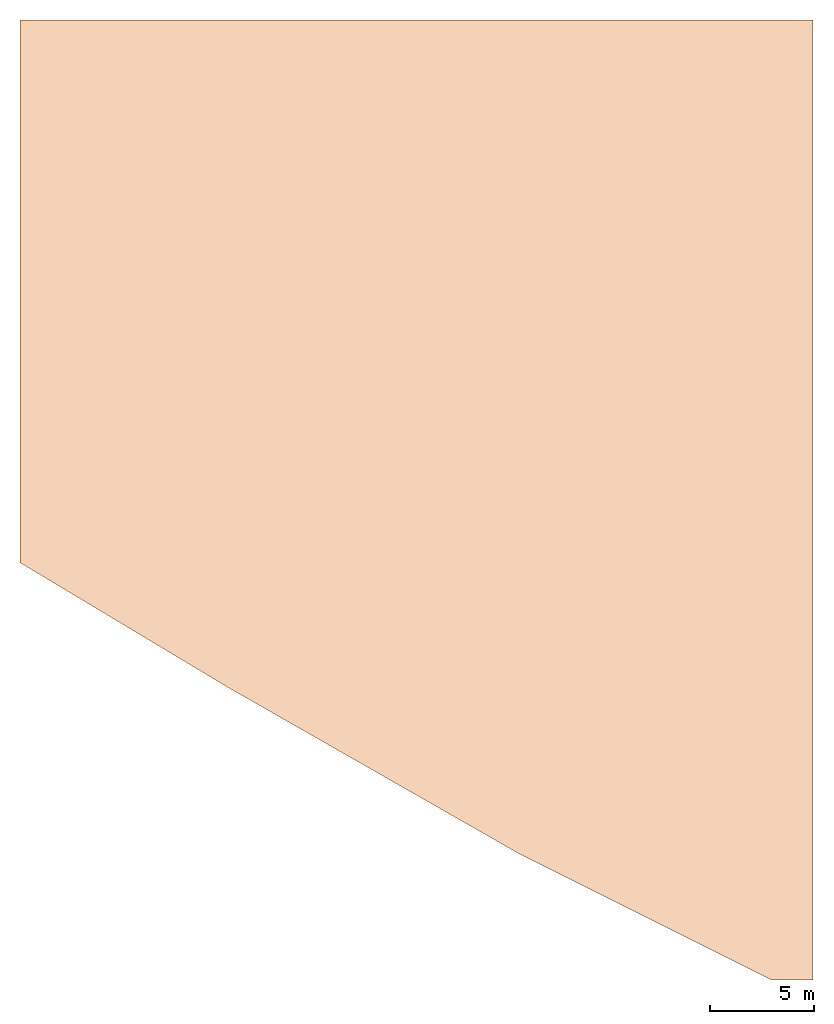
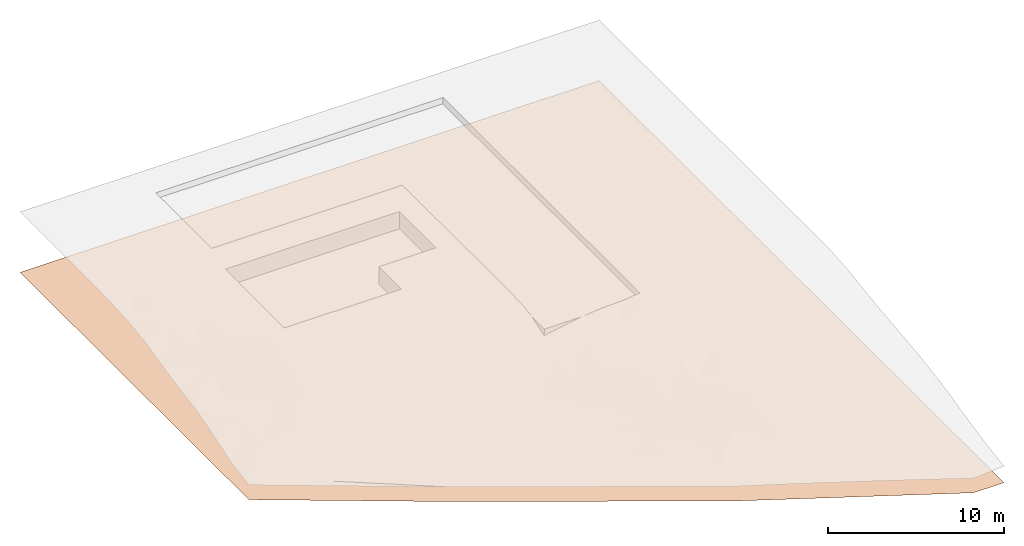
# Not in any storey, incomplete: 1 geographic element.
"""IFC4X3_ADD2 model written with IfcOpenShell, lengths in metres."""

from ifc_helpers import new_model, entity, si_unit, direction, origin_with_axes, place, context, project, spatial, shape, element, save


model = new_model("IFC4X3_ADD2")

# Units and contexts
model_context = context("Model", 3, precision=1e-05, world=origin_with_axes(), true_north=direction((0.0, 1.0)))
ifc_project = project(units=[si_unit("LENGTHUNIT", "METRE"), si_unit("AREAUNIT", "SQUARE_METRE"), si_unit("VOLUMEUNIT", "CUBIC_METRE"), si_unit("PLANEANGLEUNIT", "RADIAN"), si_unit("TIMEUNIT", "SECOND"), si_unit("MASSUNIT", "GRAM")], contexts=[model_context])

# Road
road_placement = place(None, origin_with_axes())
road = spatial("IfcRoad", under=ifc_project, at=road_placement, Name="Civil Road", PredefinedType="NOTDEFINED")

# Geographic element
geographic_element_placement = place(None, origin_with_axes())
element("IfcGeographicElement", 1, at=geographic_element_placement, inside=road, Name="Geländemodell1", PredefinedType="TERRAIN", shapes=[
    shape(model_context, None, None, [entity("IfcTriangulatedIrregularNetwork", entity("IfcCartesianPointList3D", [[36.7, 24.4, -4.56], [36.7, -21.6, -4.56], [34.7, -21.6, -4.56], [22.7, -15.6, -4.56], [8.7, -7.6, -4.56], [-1.300000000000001, -1.6, -4.56], [-1.300000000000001, 24.4, -4.56], [0.6999999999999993, 24.4, -4.56], [2.699999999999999, 24.4, -4.56], [4.699999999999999, 24.4, -4.56], [6.699999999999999, 24.4, -4.56], [8.7, 24.4, -4.56], [10.7, 24.4, -4.56], [12.7, 24.4, -4.56], [14.7, 24.4, -4.56], [16.7, 24.4, -4.56], [18.7, 24.4, -4.56], [20.7, 24.4, -4.56], [22.7, 24.4, -4.56], [24.7, 24.4, -4.56], [26.7, 24.4, -4.56], [28.7, 24.4, -4.56], [30.7, 24.4, -4.56], [32.7, 24.4, -4.56], [34.7, 24.4, -4.56], [-1.300000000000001, 22.4, -4.56], [-1.300000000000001, 20.4, -4.56], [-1.300000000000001, 18.4, -4.56], [-1.300000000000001, 16.4, -4.56], [-1.300000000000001, 14.4, -4.56], [-1.300000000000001, 12.4, -4.56], [-1.300000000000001, 10.4, -4.56], [-1.300000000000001, 8.4, -4.56], [-1.300000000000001, 6.4, -4.56], [-1.300000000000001, 4.4, -4.56], [-1.300000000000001, 2.4, -4.56], [-1.300000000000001, 0.4000000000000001, -4.56], [36.7, 22.4, -4.56], [36.7, 20.4, -4.56], [36.7, 18.4, -4.56], [36.7, 16.4, -4.56], [36.7, 14.4, -4.56], [36.7, 12.4, -4.56], [36.7, 10.4, -4.56], [36.7, 8.4, -4.56], [36.7, 6.4, -4.56], [36.7, 4.4, -4.56], [36.7, 2.4, -4.56], [36.7, 0.4000000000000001, -4.56], [36.7, -1.6, -4.56], [36.7, -3.6, -4.56], [36.7, -5.6, -4.56], [36.7, -7.6, -4.56], [36.7, -9.6, -4.56], [36.7, -11.6, -4.56], [36.7, -13.6, -4.56], [36.7, -15.6, -4.56], [36.7, -17.6, -4.56], [36.7, -19.6, -4.56], [30.7, -19.6, -4.56], [26.7, -17.6, -4.56]]), None, False, [[26, 9, 8], [6, 21, 20], [36, 19, 18], [30, 12, 29], [32, 14, 31], [14, 32, 15], [10, 28, 11], [27, 9, 26], [9, 27, 10], [31, 13, 30], [6, 1, 25], [11, 29, 12], [7, 26, 8], [28, 10, 27], [29, 11, 28], [12, 30, 13], [13, 31, 14], [33, 15, 32], [6, 25, 24], [37, 20, 19], [36, 18, 35], [6, 22, 21], [6, 24, 23], [57, 3, 58], [56, 3, 57], [3, 59, 58], [6, 20, 37], [2, 59, 3], [37, 19, 36], [1, 4, 61], [6, 23, 22], [55, 3, 56], [54, 3, 55], [53, 3, 54], [52, 3, 53], [51, 3, 52], [50, 3, 51], [49, 3, 50], [48, 3, 49], [47, 3, 48], [46, 3, 47], [45, 3, 46], [44, 3, 45], [43, 3, 44], [42, 3, 43], [41, 3, 42], [40, 3, 41], [39, 3, 40], [38, 3, 39], [1, 3, 38], [34, 16, 33], [1, 6, 5], [33, 16, 15], [34, 17, 16], [35, 17, 34], [35, 18, 17], [1, 5, 4], [60, 1, 61], [3, 1, 60]], None, [0, 0, 0, 0, 0, 0, 0, 0, 0, 0, 0, 0, 0, 0, 0, 0, 0, 0, 0, 0, 0, 0, 0, 0, 0, 0, 0, 0, 0, 0, 0, 0, 0, 0, 0, 0, 0, 0, 0, 0, 0, 0, 0, 0, 0, 0, 0, 0, 0, 0, 0, 0, 0, 0, 0, 0, 0, 0, 0])]),
])

save(model, "model.ifc")
